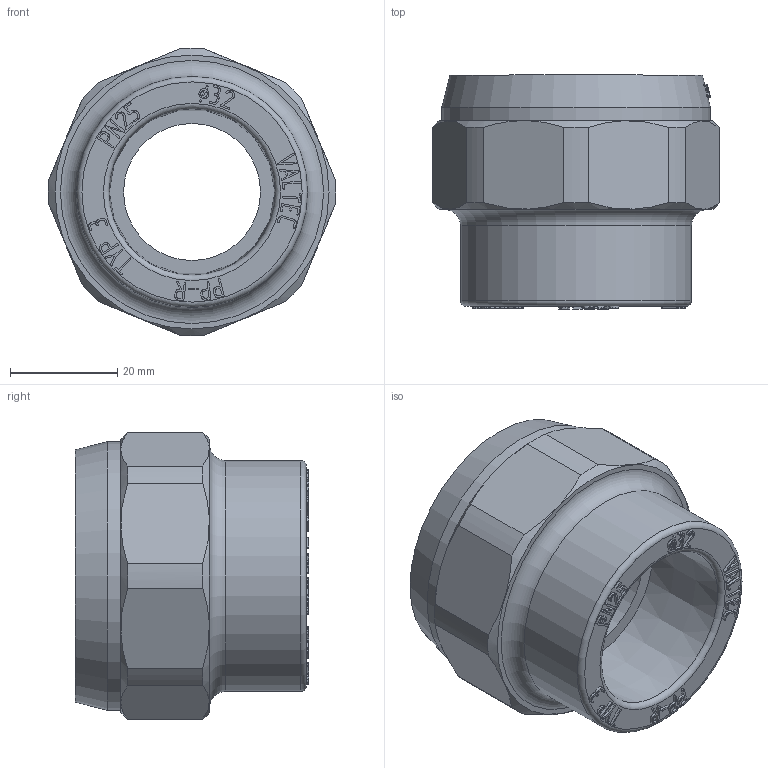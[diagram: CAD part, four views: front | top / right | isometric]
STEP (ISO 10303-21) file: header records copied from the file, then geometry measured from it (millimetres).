
FILE_DESCRIPTION(('STEP AP203'), '1');
FILE_NAME('ÂÐ.753153.014 - VTp.702.0.03206', '', ('UNSPECIFIED'), ('UNSPECIFIED'), 'C3D Converter', 'C3D Toolkit', '');
FILE_SCHEMA(('CONFIG_CONTROL_DESIGN'));
Length unit declared in the file: millimetre
Products named in the file (4): ВР.753153.014; ВР.302639.016.000; ВР.713661.003
Assembly tree (3 placements, depth 3):
  ВР.753153.014
    ВР.302639.016.000
      ВР.713661.003
      (unnamed)
Bounding box: 53.49 x 43.5 x 53.48 mm (x, y, z)
Volume: 47777.7 mm3; surface area: 23868.9 mm2
Topology: 3 solids, 3 shells, 801 faces, 2220 edges, 1478 vertices
Faces by surface type: extrusion 421, plane 322, cylinder 37, cone 13, torus 8
Full cylindrical faces by diameter (mm): 25.5 x1, 30.292 x1, 34 x1, 37.5 x8, 41.5 x10, 43 x1, 50 x1
Entity records: 28630 total; most frequent: CARTESIAN_POINT 9742, ORIENTED_EDGE 4356, DIRECTION 2585, EDGE_CURVE 2178, VECTOR 1529, VERTEX_POINT 1471, B_SPLINE_CURVE_WITH_KNOTS 1352, LINE 1108
